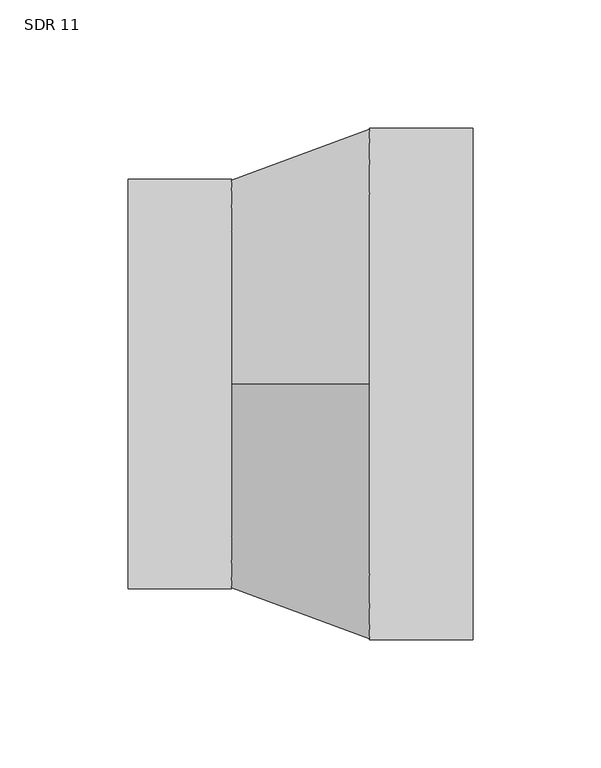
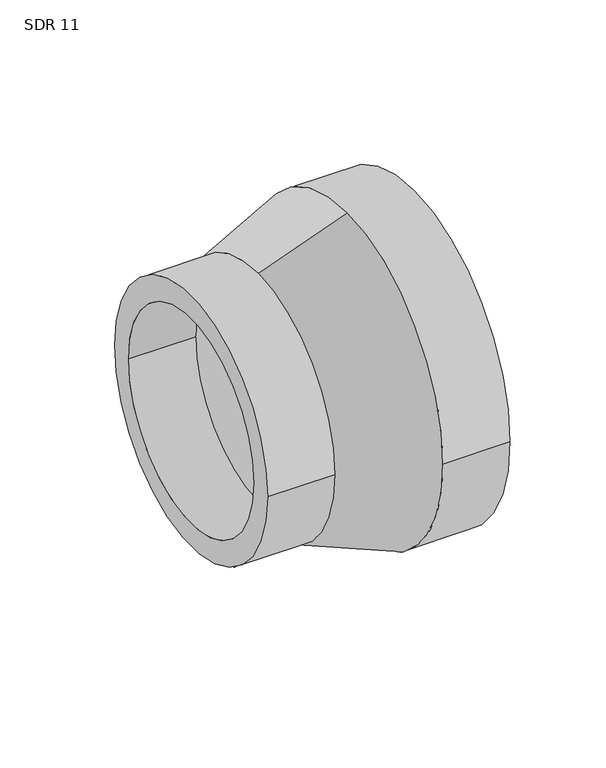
"""IFC4 building model written with IfcOpenShell, lengths in millimetres: pipe fitting geometry, Aquatherm - Reducing Coupling Combined - METRIC : SDR 11."""

from ifc_helpers import new_model, si_unit, frame, origin, place, context, project, spatial, polyline, circle_curve, source, transform, mapped, element, save
from ifc_brep_helpers import plane_surface, cylinder_surface, revolved_surface, advanced_brep


def sdr_11_18e376b6(model_context):
    return source(origin(), model_context, "Body", "AdvancedBrep", [
        advanced_brep(
        [(-67.437, -80.01, 0.0), (-67.437, 80.01, 0.0), (-67.437, -65.4627273, 0.0), (-67.437, 65.4627273, 0.0), (-26.9748, 65.4627273, 0.0), (-26.9748, 0.0, 65.4627273), (-26.9748, -65.4627273, 0.0), (-26.9748, 0.0, -65.4627273), (-26.9748, 80.01, 0.0), (-26.9748, 0.0, -80.01), (-26.9748, -80.01, 0.0), (-26.9748, 0.0, 80.01), (67.437, -99.949, 0.0), (67.437, 99.949, 0.0), (67.437, -81.7764545, 0.0), (67.437, 81.7764545, 0.0), (26.9748, -99.949, 0.0), (26.9748, 0.0, -99.949), (26.9748, 99.949, 0.0), (26.9748, 0.0, 99.949), (26.9748, -81.7764545, 0.0), (26.9748, 0.0, 81.7764545), (26.9748, 81.7764545, 0.0), (26.9748, 0.0, -81.7764545)],
        [
            (0, 1, circle_curve(frame((-67.437, 0.0, 0.0), z_axis=(-1.0, 0.0, 0.0), x_axis=(0.0, 1.0, 0.0)), 80.01)),
            (1, 0, circle_curve(frame((-67.437, 0.0, 0.0), z_axis=(-1.0, 0.0, 0.0), x_axis=(0.0, 1.0, 0.0)), 80.01)),
            (2, 3, circle_curve(frame((-67.437, 0.0, 0.0), z_axis=(1.0, 0.0, 0.0), x_axis=(0.0, 1.0, 0.0)), 65.4627273)),
            (3, 2, circle_curve(frame((-67.437, 0.0, 0.0), z_axis=(1.0, 0.0, 0.0), x_axis=(0.0, 1.0, 0.0)), 65.4627273)),
            (3, 4),
            (4, 5, circle_curve(frame((-26.9748, 0.0, 0.0), z_axis=(1.0, 0.0, 0.0), x_axis=(0.0, 1.0, 0.0)), 65.4627273)),
            (5, 6, circle_curve(frame((-26.9748, 0.0, 0.0), z_axis=(1.0, 0.0, 0.0), x_axis=(0.0, 1.0, 0.0)), 65.4627273)),
            (6, 2),
            (6, 7, circle_curve(frame((-26.9748, 0.0, 0.0), z_axis=(1.0, 0.0, 0.0), x_axis=(0.0, 1.0, 0.0)), 65.4627273)),
            (7, 4, circle_curve(frame((-26.9748, 0.0, 0.0), z_axis=(1.0, 0.0, 0.0), x_axis=(0.0, 1.0, 0.0)), 65.4627273)),
            (1, 8),
            (8, 9, circle_curve(frame((-26.9748, 0.0, 0.0), z_axis=(-1.0, 0.0, 0.0), x_axis=(0.0, 1.0, 0.0)), 80.01)),
            (9, 10, circle_curve(frame((-26.9748, 0.0, 0.0), z_axis=(-1.0, 0.0, 0.0), x_axis=(0.0, 1.0, 0.0)), 80.01)),
            (10, 0),
            (10, 11, circle_curve(frame((-26.9748, 0.0, 0.0), z_axis=(-1.0, 0.0, 0.0), x_axis=(0.0, 1.0, 0.0)), 80.01)),
            (11, 8, circle_curve(frame((-26.9748, 0.0, 0.0), z_axis=(-1.0, 0.0, 0.0), x_axis=(0.0, 1.0, 0.0)), 80.01)),
            (12, 13, circle_curve(frame((67.437, 0.0, 0.0), z_axis=(1.0, 0.0, 0.0), x_axis=(0.0, 1.0, 0.0)), 99.949)),
            (13, 12, circle_curve(frame((67.437, 0.0, 0.0), z_axis=(1.0, 0.0, 0.0), x_axis=(0.0, 1.0, 0.0)), 99.949)),
            (14, 15, circle_curve(frame((67.437, 0.0, 0.0), z_axis=(-1.0, 0.0, 0.0), x_axis=(0.0, 1.0, 0.0)), 81.7764545)),
            (15, 14, circle_curve(frame((67.437, 0.0, 0.0), z_axis=(-1.0, 0.0, 0.0), x_axis=(0.0, 1.0, 0.0)), 81.7764545)),
            (12, 16),
            (16, 17, circle_curve(frame((26.9748, 0.0, 0.0), z_axis=(1.0, 0.0, 0.0), x_axis=(0.0, 1.0, 0.0)), 99.949)),
            (17, 18, circle_curve(frame((26.9748, 0.0, 0.0), z_axis=(1.0, 0.0, 0.0), x_axis=(0.0, 1.0, 0.0)), 99.949)),
            (18, 13),
            (18, 19, circle_curve(frame((26.9748, 0.0, 0.0), z_axis=(1.0, 0.0, 0.0), x_axis=(0.0, 1.0, 0.0)), 99.949)),
            (19, 16, circle_curve(frame((26.9748, 0.0, 0.0), z_axis=(1.0, 0.0, 0.0), x_axis=(0.0, 1.0, 0.0)), 99.949)),
            (14, 20),
            (20, 21, circle_curve(frame((26.9748, 0.0, 0.0), z_axis=(-1.0, 0.0, 0.0), x_axis=(0.0, 1.0, 0.0)), 81.7764545)),
            (21, 22, circle_curve(frame((26.9748, 0.0, 0.0), z_axis=(-1.0, 0.0, 0.0), x_axis=(0.0, 1.0, 0.0)), 81.7764545)),
            (22, 15),
            (22, 23, circle_curve(frame((26.9748, 0.0, 0.0), z_axis=(-1.0, 0.0, 0.0), x_axis=(0.0, 1.0, 0.0)), 81.7764545)),
            (23, 20, circle_curve(frame((26.9748, 0.0, 0.0), z_axis=(-1.0, 0.0, 0.0), x_axis=(0.0, 1.0, 0.0)), 81.7764545)),
            (11, 19),
            (17, 9),
            (21, 5),
            (7, 23),
        ],
        [
            plane_surface(frame((-67.437, 65.4627273, 0.0), z_axis=(-1.0, 0.0, 0.0), x_axis=(0.0, 0.0, 1.0))),
            revolved_surface(polyline([(-67.437, 65.4627273, 0.0), (-26.974800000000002, 65.4627273, 0.0)]), (-67.437, 0.0, 0.0), (-1.0, 0.0, 0.0)),
            cylinder_surface(frame((0.0, 0.0, 0.0), z_axis=(1.0, 0.0, 0.0), x_axis=(0.0, 1.0, 0.0)), 80.01),
            plane_surface(frame((67.437, 99.949, 0.0), z_axis=(1.0, 0.0, 0.0), x_axis=(0.0, 0.0, 1.0))),
            cylinder_surface(frame((26.9748, 0.0, 0.0), z_axis=(1.0, 0.0, 0.0), x_axis=(0.0, 1.0, 0.0)), 99.949),
            revolved_surface(polyline([(26.9748, 81.7764545, 0.0), (67.437, 81.7764545, 0.0)]), (0.0, 0.0, 0.0), (-1.0, 0.0, 0.0)),
            revolved_surface(polyline([(26.9748, 0.0, 99.949), (-26.9748, 0.0, 80.01)]), (-642.6965384, 0.0, 0.0), (-1.0, 0.0, 0.0)),
            revolved_surface(polyline([(-26.9748, 0.0, 65.4627273), (26.9748, 0.0, 81.7764545)]), (-642.6965384, 0.0, 0.0), (-1.0, 0.0, 0.0)),
        ],
        [
            (0, [[1, 2], [3, 4]]),
            (1, [[-4, 5, 6, 7, 8]]),
            (1, [[-3, -8, 9, 10, -5]]),
            (2, [[-2, 11, 12, 13, 14]]),
            (2, [[-1, -14, 15, 16, -11]]),
            (3, [[17, 18], [19, 20]]),
            (4, [[-17, 21, 22, 23, 24]]),
            (4, [[-18, -24, 25, 26, -21]]),
            (5, [[-19, 27, 28, 29, 30]]),
            (5, [[-20, -30, 31, 32, -27]]),
            (6, [[33, -25, -23, 34, -12, -16]]),
            (6, [[-33, -15, -13, -34, -22, -26]]),
            (7, [[35, -6, -10, 36, -31, -29]]),
            (7, [[-35, -28, -32, -36, -9, -7]]),
        ],
    ),
    ])


if __name__ == "__main__":
    model = new_model("IFC4")
    model_context = context("Model", 3, world=origin())
    ifc_project = project(units=[si_unit("LENGTHUNIT", "METRE", prefix="MILLI")], contexts=[model_context])
    site = spatial("IfcSite", under=ifc_project)
    building = spatial("IfcBuilding", under=site)
    placement = place(None, origin())
    sdr_11_shape = sdr_11_18e376b6(model_context)
    element("IfcPipeFitting", 1, ObjectType="Aquatherm - Reducing Coupling Combined - METRIC : SDR 11", at=placement, inside=building, context=model_context, shape_type="MappedRepresentation", body=[
        mapped(sdr_11_shape, transform((0.0, 0.0, 0.0), x_axis=(1.0, 0.0, 0.0), y_axis=(0.0, 1.0, 0.0), z_axis=(0.0, 0.0, 1.0))),
    ])
    save(model, "model.ifc")
